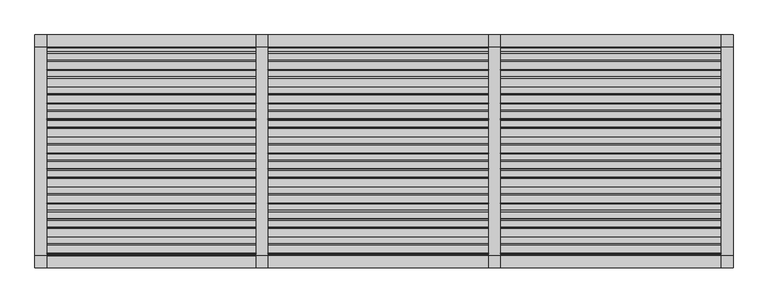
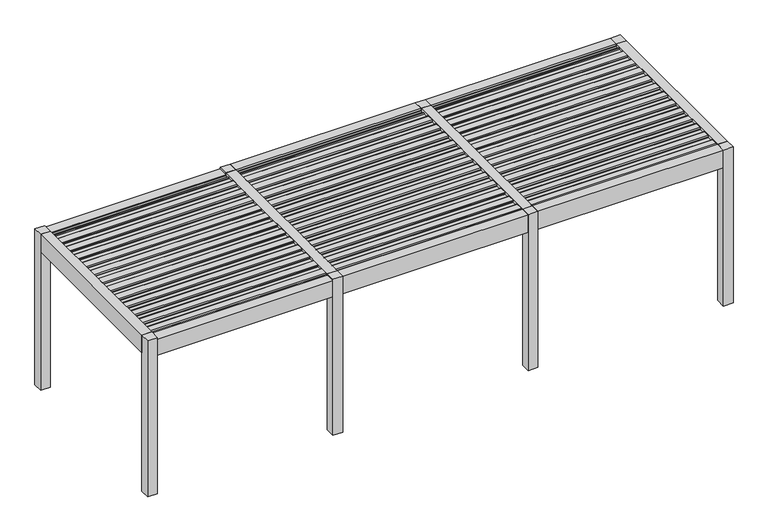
"""IFC4 building model written with IfcOpenShell, lengths in millimetres: proxy geometry, Renson_Amani_Patio_Cover : Renson_Amani_Patio_Cover."""

import ifcopenshell
import ifcopenshell.guid

model = None  # the IFC model being written
_history = None  # IfcOwnerHistory: only IFC2X3 demands one
_inside = {}  # id of a spatial element -> (the spatial element, [elements in it])
_under = {}  # id of a project, library or spatial element -> (it, [spatial elements below it])
_declared = {}  # id of a project -> (the project, [libraries it declares])
_typed = {}  # id of a type object -> (the type object, [elements of that type])
_made_of = {}  # id of a material, layer set ... -> (it, [elements and type objects made of it])


def new_model(schema):
    """Start an empty IFC model of exactly this schema.

    Asked for "IFC4X3", IfcOpenShell would pick the latest addendum, in which some entities
    have other attributes; the version numbers below select the first issue.
    IFC2X3 requires an IfcOwnerHistory on every rooted entity: one is made here for all.
    """
    global model, _history
    if schema == "IFC4X3":
        model = ifcopenshell.file(schema_version=(4, 3, 0, 0))
    else:
        model = ifcopenshell.file(schema=schema)
    _inside.clear()
    _under.clear()
    _declared.clear()
    _typed.clear()
    _made_of.clear()
    _history = None
    if model.schema == "IFC2X3":
        org = make("IfcOrganization", Name="unknown")
        user = make(
            "IfcPersonAndOrganization",
            ThePerson=make("IfcPerson", FamilyName="unknown"),
            TheOrganization=org,
        )
        app = make(
            "IfcApplication",
            ApplicationDeveloper=org,
            Version="unknown",
            ApplicationFullName="unknown",
            ApplicationIdentifier="unknown",
        )
        _history = make(
            "IfcOwnerHistory",
            OwningUser=user,
            OwningApplication=app,
            ChangeAction="ADDED",
            CreationDate=0,
        )
    return model


def make(cls, **values):
    """One entity of the class cls with the attributes given. An attribute that is None is left unset."""
    return model.create_entity(
        cls, **{name: value for name, value in values.items() if value is not None}
    )


def rooted(cls, **values):
    """An entity with a GlobalId (a new one), such as an element, a storey or a relation."""
    return make(cls, GlobalId=ifcopenshell.guid.new(), OwnerHistory=_history, **values)


def si_unit(unit_type, name, prefix=None):
    """IfcSIUnit, for example si_unit("LENGTHUNIT", "METRE", prefix="MILLI")."""
    return make("IfcSIUnit", UnitType=unit_type, Prefix=prefix, Name=name)


def assignment(units):
    """IfcUnitAssignment: the units of a project."""
    return None if units is None else make("IfcUnitAssignment", Units=units)


def point(xyz):
    """IfcCartesianPoint."""
    return None if xyz is None else make("IfcCartesianPoint", Coordinates=xyz)


def direction(xyz):
    """IfcDirection."""
    return None if xyz is None else make("IfcDirection", DirectionRatios=xyz)


def frame(location, z_axis=None, x_axis=None):
    """IfcAxis2Placement3D, a coordinate frame: its origin and axes. An axis left out is left unset."""
    return make(
        "IfcAxis2Placement3D",
        Location=point(location),
        Axis=direction(z_axis),
        RefDirection=direction(x_axis),
    )


def frame_2d(location, x_axis=None):
    """IfcAxis2Placement2D, a coordinate frame in the plane: its origin and x axis."""
    return make(
        "IfcAxis2Placement2D", Location=point(location), RefDirection=direction(x_axis)
    )


def origin():
    """The frame at (0, 0, 0) with its axes left unset."""
    return frame((0.0, 0.0, 0.0))


def origin_with_axes():
    """The frame at (0, 0, 0) with the z axis (0, 0, 1) and the x axis (1, 0, 0) written out."""
    return frame((0.0, 0.0, 0.0), z_axis=(0.0, 0.0, 1.0), x_axis=(1.0, 0.0, 0.0))


def place(relative_to, where):
    """IfcLocalPlacement: puts the frame where relative to a parent placement (None: the world)."""
    return make(
        "IfcLocalPlacement", PlacementRelTo=relative_to, RelativePlacement=where
    )


def context(
    kind, dimensions, precision=None, world=None, true_north=None, identifier=None
):
    """IfcGeometricRepresentationContext, for example the 3D "Model" context."""
    return make(
        "IfcGeometricRepresentationContext",
        ContextIdentifier=identifier,
        ContextType=kind,
        CoordinateSpaceDimension=dimensions,
        Precision=precision,
        WorldCoordinateSystem=world,
        TrueNorth=true_north,
    )


def project(units=None, contexts=None):
    """IfcProject with its units and contexts."""
    return rooted(
        "IfcProject",
        Name="project",
        RepresentationContexts=contexts,
        UnitsInContext=assignment(units),
    )


def spatial(cls, under=None, at=None, **own):
    """A site, building, storey or space (cls), placed at a placement, below another one or the project."""
    s = rooted(cls, ObjectPlacement=at, **own)
    if under is not None:
        _under.setdefault(under.id(), (under, []))[1].append(s)
    return s


def polyline(points):
    """IfcPolyline through the points."""
    return make("IfcPolyline", Points=[point(p) for p in points])


def circle_curve(where, radius):
    """IfcCircle in the frame where."""
    return make("IfcCircle", Position=where, Radius=radius)


def trimmed(basis, trim1, trim2, sense, master):
    """IfcTrimmedCurve: the piece of a basis curve between two trims."""
    return make(
        "IfcTrimmedCurve",
        BasisCurve=basis,
        Trim1=trim1,
        Trim2=trim2,
        SenseAgreement=sense,
        MasterRepresentation=master,
    )


def segment(curve, same_sense, transition):
    """IfcCompositeCurveSegment."""
    return make(
        "IfcCompositeCurveSegment",
        Transition=transition,
        SameSense=same_sense,
        ParentCurve=curve,
    )


def composite_curve(segments, self_intersect=None):
    """IfcCompositeCurve: segments joined end to end."""
    return make("IfcCompositeCurve", Segments=segments, SelfIntersect=self_intersect)


def outline(outer, holes=None, kind="AREA"):
    """IfcArbitraryClosedProfileDef: a profile drawn as a closed curve; with holes, ...WithVoids."""
    if holes is None:
        return make("IfcArbitraryClosedProfileDef", ProfileType=kind, OuterCurve=outer)
    return make(
        "IfcArbitraryProfileDefWithVoids",
        ProfileType=kind,
        OuterCurve=outer,
        InnerCurves=holes,
    )


def extrude(swept, where, along, depth):
    """IfcExtrudedAreaSolid: the profile swept, set in the frame where, extruded along a direction by depth."""
    return make(
        "IfcExtrudedAreaSolid",
        SweptArea=swept,
        Position=where,
        ExtrudedDirection=direction(along),
        Depth=depth,
    )


def shape(context_of_items, identifier, shape_type, items):
    """IfcShapeRepresentation: the items that make up one representation, for example the "Body"."""
    return make(
        "IfcShapeRepresentation",
        ContextOfItems=context_of_items,
        RepresentationIdentifier=identifier,
        RepresentationType=shape_type,
        Items=items,
    )


def source(mapping_origin, context_of_items, identifier, shape_type, items):
    """IfcRepresentationMap: a shape defined once, which mapped items show again and again."""
    return make(
        "IfcRepresentationMap",
        MappingOrigin=mapping_origin,
        MappedRepresentation=shape(context_of_items, identifier, shape_type, items),
    )


def transform(
    local_origin,
    x_axis=None,
    y_axis=None,
    z_axis=None,
    scale=None,
    scale2=None,
    scale3=None,
    uniform=True,
):
    """IfcCartesianTransformationOperator3D, or its non-uniform kind. x_axis, y_axis, z_axis: its Axis1, 2, 3."""
    if uniform:
        return make(
            "IfcCartesianTransformationOperator3D",
            Axis1=direction(x_axis),
            Axis2=direction(y_axis),
            LocalOrigin=point(local_origin),
            Scale=scale,
            Axis3=direction(z_axis),
        )
    return make(
        "IfcCartesianTransformationOperator3DnonUniform",
        Axis1=direction(x_axis),
        Axis2=direction(y_axis),
        LocalOrigin=point(local_origin),
        Scale=scale,
        Axis3=direction(z_axis),
        Scale2=scale2,
        Scale3=scale3,
    )


def mapped(mapping_source, mapping_target):
    """IfcMappedItem: shows the shape of a source again, moved by a transform."""
    return make(
        "IfcMappedItem", MappingSource=mapping_source, MappingTarget=mapping_target
    )


def made_of(thing, what):
    """Note that an element or type object is made of a material, layer set ...; save() writes the relation."""
    if what is not None:
        _made_of.setdefault(what.id(), (what, []))[1].append(thing)
    return thing


def element(
    cls,
    number,
    at=None,
    inside=None,
    cuts=None,
    type_object=None,
    material=None,
    context=None,
    identifier="Body",
    shape_type=None,
    held_by="IfcProductDefinitionShape",
    body=None,
    shapes=None,
    **own,
):
    """One element of the class cls, such as IfcWall. Its Tag is "e" and its number.

    at: its placement. inside: the storey or other place that contains it. cuts: it is an
    opening in that element (IfcRelVoidsElement). A single representation is given by context,
    identifier, shape_type and body (its items); several are given by shapes. held_by: the class
    of the entity that holds the representations. save() writes the other relations.
    """
    e = rooted(cls, Tag="e%d" % number, ObjectPlacement=at, **own)
    if body is not None:
        shapes = [shape(context, identifier, shape_type, body)]
    if shapes is not None:
        e.Representation = make(held_by, Representations=shapes)
    if inside is not None:
        _inside.setdefault(inside.id(), (inside, []))[1].append(e)
    if cuts is not None:
        rooted(
            "IfcRelVoidsElement", RelatingBuildingElement=cuts, RelatedOpeningElement=e
        )
    if type_object is not None:
        _typed.setdefault(type_object.id(), (type_object, []))[1].append(e)
    return made_of(e, material)


def aggregate(whole, parts):
    """IfcRelAggregates: a whole, such as a stair, and the parts it consists of."""
    return rooted("IfcRelAggregates", RelatingObject=whole, RelatedObjects=parts)


def save(model, path):
    """Write the relations noted so far, then the file.

    IfcRelAggregates (storeys below a building ...), IfcRelContainedInSpatialStructure (elements
    in a storey), IfcRelDefinesByType, IfcRelAssociatesMaterial and IfcRelDeclares: one each for
    every whole, place, type object, material and project.
    """
    for whole, parts in _under.values():
        aggregate(whole, parts)
    for where, things in _inside.values():
        rooted(
            "IfcRelContainedInSpatialStructure",
            RelatedElements=things,
            RelatingStructure=where,
        )
    for kind, things in _typed.values():
        rooted("IfcRelDefinesByType", RelatedObjects=things, RelatingType=kind)
    for what, things in _made_of.values():
        rooted("IfcRelAssociatesMaterial", RelatedObjects=things, RelatingMaterial=what)
    for by, libraries in _declared.values():
        rooted("IfcRelDeclares", RelatingContext=by, RelatedDefinitions=libraries)
    model.write(path)


def generic_models_ec7fa52f(model_context):
    return source(origin(), model_context, "Body", "SweptSolid", [
        extrude(outline(composite_curve([segment(polyline([(-1073.7289238, 2483.35), (-1076.1490335, 2511.01198), (-1104.984284, 2512.3970364), (-1101.5469529, 2531.8911096), (-991.549838, 2526.6075693)]), True, "CONTINUOUS"), segment(trimmed(circle_curve(frame_2d((-992.26951, 2511.6248435)), 15.0), [point((-991.549838, 2526.6075693))], [point((-977.4973937, 2514.2295662))], False, "CARTESIAN"), True, "CONTINUOUS"), segment(polyline([(-977.4973937, 2514.2295662), (-974.1067023, 2495.0), (-886.3709263, 2495.0), (-883.3594689, 2512.0788237), (-868.0824984, 2511.3450182), (-865.6332517, 2483.35), (-1073.7289238, 2483.35)]), True, "CONTINUOUS")], self_intersect=False)), frame((4500.0, 0.0, 0.0), z_axis=(1.0, 0.0, 0.0), x_axis=(0.0, 1.0, 0.0)), (0.0, 0.0, 1.0), 2850.0),
        extrude(outline(composite_curve([segment(polyline([(-858.7132078, 2483.35), (-861.1333174, 2511.01198), (-889.9685679, 2512.3970364), (-886.5312368, 2531.8911096), (-776.534122, 2526.6075693)]), True, "CONTINUOUS"), segment(trimmed(circle_curve(frame_2d((-777.2537939, 2511.6248435)), 15.0), [point((-776.534122, 2526.6075693))], [point((-762.4816776, 2514.2295662))], False, "CARTESIAN"), True, "CONTINUOUS"), segment(polyline([(-762.4816776, 2514.2295662), (-759.0909863, 2495.0), (-671.3552102, 2495.0), (-668.3437528, 2512.0788237), (-653.0667824, 2511.3450182), (-650.6175356, 2483.35), (-858.7132078, 2483.35)]), True, "CONTINUOUS")], self_intersect=False)), frame((4500.0, 0.0, 0.0), z_axis=(1.0, 0.0, 0.0), x_axis=(0.0, 1.0, 0.0)), (0.0, 0.0, 1.0), 2850.0),
        extrude(outline(composite_curve([segment(polyline([(-643.6974917, 2483.35), (-646.1176014, 2511.01198), (-674.9528519, 2512.3970364), (-671.5155208, 2531.8911096), (-561.5184059, 2526.6075693)]), True, "CONTINUOUS"), segment(trimmed(circle_curve(frame_2d((-562.2380779, 2511.6248435)), 15.0), [point((-561.5184059, 2526.6075693))], [point((-547.4659616, 2514.2295662))], False, "CARTESIAN"), True, "CONTINUOUS"), segment(polyline([(-547.4659616, 2514.2295662), (-544.0752702, 2495.0), (-456.3394942, 2495.0), (-453.3280368, 2512.0788237), (-438.0510663, 2511.3450182), (-435.6018196, 2483.35), (-643.6974917, 2483.35)]), True, "CONTINUOUS")], self_intersect=False)), frame((4500.0, 0.0, 0.0), z_axis=(1.0, 0.0, 0.0), x_axis=(0.0, 1.0, 0.0)), (0.0, 0.0, 1.0), 2850.0),
        extrude(outline(composite_curve([segment(polyline([(-428.6817757, 2483.35), (-431.1018854, 2511.01198), (-459.9371358, 2512.3970364), (-456.4998047, 2531.8911096), (-346.5026899, 2526.6075693)]), True, "CONTINUOUS"), segment(trimmed(circle_curve(frame_2d((-347.2223618, 2511.6248435)), 15.0), [point((-346.5026899, 2526.6075693))], [point((-332.4502455, 2514.2295662))], False, "CARTESIAN"), True, "CONTINUOUS"), segment(polyline([(-332.4502455, 2514.2295662), (-329.0595542, 2495.0), (-241.3237782, 2495.0), (-238.3123207, 2512.0788237), (-223.0353503, 2511.3450182), (-220.5861035, 2483.35), (-428.6817757, 2483.35)]), True, "CONTINUOUS")], self_intersect=False)), frame((4500.0, 0.0, 0.0), z_axis=(1.0, 0.0, 0.0), x_axis=(0.0, 1.0, 0.0)), (0.0, 0.0, 1.0), 2850.0),
        extrude(outline(composite_curve([segment(polyline([(-213.6660597, 2483.35), (-216.0861693, 2511.01198), (-244.9214198, 2512.3970364), (-241.4840887, 2531.8911096), (-131.4869738, 2526.6075693)]), True, "CONTINUOUS"), segment(trimmed(circle_curve(frame_2d((-132.2066458, 2511.6248435)), 15.0), [point((-131.4869738, 2526.6075693))], [point((-117.4345295, 2514.2295662))], False, "CARTESIAN"), True, "CONTINUOUS"), segment(polyline([(-117.4345295, 2514.2295662), (-114.0438381, 2495.0), (-26.3080621, 2495.0), (-23.2966047, 2512.0788237), (-8.0196342, 2511.3450182), (-5.5703875, 2483.35), (-213.6660597, 2483.35)]), True, "CONTINUOUS")], self_intersect=False)), frame((4500.0, 0.0, 0.0), z_axis=(1.0, 0.0, 0.0), x_axis=(0.0, 1.0, 0.0)), (0.0, 0.0, 1.0), 2850.0),
        extrude(outline(composite_curve([segment(polyline([(1.3496564, 2483.35), (-1.0704533, 2511.01198), (-29.9057037, 2512.3970364), (-26.4683726, 2531.8911096), (83.5287422, 2526.6075693)]), True, "CONTINUOUS"), segment(trimmed(circle_curve(frame_2d((82.8090703, 2511.6248435)), 15.0), [point((83.5287422, 2526.6075693))], [point((97.5811866, 2514.2295662))], False, "CARTESIAN"), True, "CONTINUOUS"), segment(polyline([(97.5811866, 2514.2295662), (100.9718779, 2495.0), (188.7076539, 2495.0), (191.7191114, 2512.0788237), (206.9960818, 2511.3450182), (209.4453286, 2483.35), (1.3496564, 2483.35)]), True, "CONTINUOUS")], self_intersect=False)), frame((4500.0, 0.0, 0.0), z_axis=(1.0, 0.0, 0.0), x_axis=(0.0, 1.0, 0.0)), (0.0, 0.0, 1.0), 2850.0),
        extrude(outline(composite_curve([segment(polyline([(216.3653724, 2483.35), (213.9452628, 2511.01198), (185.1100123, 2512.3970364), (188.5473434, 2531.8911096), (298.5444582, 2526.6075693)]), True, "CONTINUOUS"), segment(trimmed(circle_curve(frame_2d((297.8247863, 2511.6248435)), 15.0), [point((298.5444582, 2526.6075693))], [point((312.5969026, 2514.2295662))], False, "CARTESIAN"), True, "CONTINUOUS"), segment(polyline([(312.5969026, 2514.2295662), (315.987594, 2495.0), (403.72337, 2495.0), (406.7348274, 2512.0788237), (422.0117979, 2511.3450182), (424.4610446, 2483.35), (216.3653724, 2483.35)]), True, "CONTINUOUS")], self_intersect=False)), frame((4500.0, 0.0, 0.0), z_axis=(1.0, 0.0, 0.0), x_axis=(0.0, 1.0, 0.0)), (0.0, 0.0, 1.0), 2850.0),
        extrude(outline(composite_curve([segment(polyline([(431.3810885, 2483.35), (428.9609788, 2511.01198), (400.1257284, 2512.3970364), (403.5630594, 2531.8911096), (513.5601743, 2526.6075693)]), True, "CONTINUOUS"), segment(trimmed(circle_curve(frame_2d((512.8405024, 2511.6248435)), 15.0), [point((513.5601743, 2526.6075693))], [point((527.6126187, 2514.2295662))], False, "CARTESIAN"), True, "CONTINUOUS"), segment(polyline([(527.6126187, 2514.2295662), (531.00331, 2495.0), (618.739086, 2495.0), (621.7505434, 2512.0788237), (637.0275139, 2511.3450182), (639.4767606, 2483.35), (431.3810885, 2483.35)]), True, "CONTINUOUS")], self_intersect=False)), frame((4500.0, 0.0, 0.0), z_axis=(1.0, 0.0, 0.0), x_axis=(0.0, 1.0, 0.0)), (0.0, 0.0, 1.0), 2850.0),
        extrude(outline(composite_curve([segment(polyline([(646.3968045, 2483.35), (643.9766949, 2511.01198), (615.1414444, 2512.3970364), (618.5787755, 2531.8911096), (728.5758903, 2526.6075693)]), True, "CONTINUOUS"), segment(trimmed(circle_curve(frame_2d((727.8562184, 2511.6248435)), 15.0), [point((728.5758903, 2526.6075693))], [point((742.6283347, 2514.2295662))], False, "CARTESIAN"), True, "CONTINUOUS"), segment(polyline([(742.6283347, 2514.2295662), (746.019026, 2495.0), (833.7548021, 2495.0), (836.7662595, 2512.0788237), (852.04323, 2511.3450182), (854.4924767, 2483.35), (646.3968045, 2483.35)]), True, "CONTINUOUS")], self_intersect=False)), frame((4500.0, 0.0, 0.0), z_axis=(1.0, 0.0, 0.0), x_axis=(0.0, 1.0, 0.0)), (0.0, 0.0, 1.0), 2850.0),
        extrude(outline(composite_curve([segment(polyline([(861.4125206, 2483.35), (858.9924109, 2511.01198), (830.1571605, 2512.3970364), (833.5944915, 2531.8911096), (943.5916064, 2526.6075693)]), True, "CONTINUOUS"), segment(trimmed(circle_curve(frame_2d((942.8719345, 2511.6248435)), 15.0), [point((943.5916064, 2526.6075693))], [point((957.6440508, 2514.2295662))], False, "CARTESIAN"), True, "CONTINUOUS"), segment(polyline([(957.6440508, 2514.2295662), (961.0347421, 2495.0), (1048.7705181, 2495.0), (1051.7819755, 2512.0788237), (1067.058946, 2511.3450182), (1069.5081927, 2483.35), (861.4125206, 2483.35)]), True, "CONTINUOUS")], self_intersect=False)), frame((4500.0, 0.0, 0.0), z_axis=(1.0, 0.0, 0.0), x_axis=(0.0, 1.0, 0.0)), (0.0, 0.0, 1.0), 2850.0),
        extrude(outline(composite_curve([segment(polyline([(-1288.7446399, 2483.35), (-1291.1647495, 2511.01198), (-1320.0, 2512.3970364), (-1316.5626689, 2531.8911096), (-1206.5655541, 2526.6075693)]), True, "CONTINUOUS"), segment(trimmed(circle_curve(frame_2d((-1207.285226, 2511.6248435)), 15.0), [point((-1206.5655541, 2526.6075693))], [point((-1192.5131097, 2514.2295662))], False, "CARTESIAN"), True, "CONTINUOUS"), segment(polyline([(-1192.5131097, 2514.2295662), (-1189.1224184, 2495.0), (-1101.3866423, 2495.0), (-1098.3751849, 2512.0788237), (-1083.0982144, 2511.3450182), (-1080.6489677, 2483.35), (-1288.7446399, 2483.35)]), True, "CONTINUOUS")], self_intersect=False)), frame((4500.0, 0.0, 0.0), z_axis=(1.0, 0.0, 0.0), x_axis=(0.0, 1.0, 0.0)), (0.0, 0.0, 1.0), 2850.0),
        extrude(outline(composite_curve([segment(polyline([(1076.4282366, 2483.35), (1074.008127, 2511.01198), (1045.1728765, 2512.3970364), (1048.6102076, 2531.8911096), (1158.6073224, 2526.6075693)]), True, "CONTINUOUS"), segment(trimmed(circle_curve(frame_2d((1157.8876505, 2511.6248435)), 15.0), [point((1158.6073224, 2526.6075693))], [point((1172.6597668, 2514.2295662))], False, "CARTESIAN"), True, "CONTINUOUS"), segment(polyline([(1172.6597668, 2514.2295662), (1176.0504581, 2495.0), (1263.7862342, 2495.0), (1266.7976916, 2512.0788237), (1282.0746621, 2511.3450182), (1284.5239088, 2483.35), (1076.4282366, 2483.35)]), True, "CONTINUOUS")], self_intersect=False)), frame((4500.0, 0.0, 0.0), z_axis=(1.0, 0.0, 0.0), x_axis=(0.0, 1.0, 0.0)), (0.0, 0.0, 1.0), 2850.0),
        extrude(outline(composite_curve([segment(polyline([(-1073.7289238, 2483.35), (-1076.1490335, 2511.01198), (-1104.984284, 2512.3970364), (-1101.5469529, 2531.8911096), (-991.549838, 2526.6075693)]), True, "CONTINUOUS"), segment(trimmed(circle_curve(frame_2d((-992.26951, 2511.6248435)), 15.0), [point((-991.549838, 2526.6075693))], [point((-977.4973937, 2514.2295662))], False, "CARTESIAN"), True, "CONTINUOUS"), segment(polyline([(-977.4973937, 2514.2295662), (-974.1067023, 2495.0), (-886.3709263, 2495.0), (-883.3594689, 2512.0788237), (-868.0824984, 2511.3450182), (-865.6332517, 2483.35), (-1073.7289238, 2483.35)]), True, "CONTINUOUS")], self_intersect=False)), frame((1500.0, 0.0, 0.0), z_axis=(1.0, 0.0, 0.0), x_axis=(0.0, 1.0, 0.0)), (0.0, 0.0, 1.0), 2850.0),
        extrude(outline(composite_curve([segment(polyline([(-858.7132078, 2483.35), (-861.1333174, 2511.01198), (-889.9685679, 2512.3970364), (-886.5312368, 2531.8911096), (-776.534122, 2526.6075693)]), True, "CONTINUOUS"), segment(trimmed(circle_curve(frame_2d((-777.2537939, 2511.6248435)), 15.0), [point((-776.534122, 2526.6075693))], [point((-762.4816776, 2514.2295662))], False, "CARTESIAN"), True, "CONTINUOUS"), segment(polyline([(-762.4816776, 2514.2295662), (-759.0909863, 2495.0), (-671.3552102, 2495.0), (-668.3437528, 2512.0788237), (-653.0667824, 2511.3450182), (-650.6175356, 2483.35), (-858.7132078, 2483.35)]), True, "CONTINUOUS")], self_intersect=False)), frame((1500.0, 0.0, 0.0), z_axis=(1.0, 0.0, 0.0), x_axis=(0.0, 1.0, 0.0)), (0.0, 0.0, 1.0), 2850.0),
        extrude(outline(composite_curve([segment(polyline([(-643.6974917, 2483.35), (-646.1176014, 2511.01198), (-674.9528519, 2512.3970364), (-671.5155208, 2531.8911096), (-561.5184059, 2526.6075693)]), True, "CONTINUOUS"), segment(trimmed(circle_curve(frame_2d((-562.2380779, 2511.6248435)), 15.0), [point((-561.5184059, 2526.6075693))], [point((-547.4659616, 2514.2295662))], False, "CARTESIAN"), True, "CONTINUOUS"), segment(polyline([(-547.4659616, 2514.2295662), (-544.0752702, 2495.0), (-456.3394942, 2495.0), (-453.3280368, 2512.0788237), (-438.0510663, 2511.3450182), (-435.6018196, 2483.35), (-643.6974917, 2483.35)]), True, "CONTINUOUS")], self_intersect=False)), frame((1500.0, 0.0, 0.0), z_axis=(1.0, 0.0, 0.0), x_axis=(0.0, 1.0, 0.0)), (0.0, 0.0, 1.0), 2850.0),
        extrude(outline(composite_curve([segment(polyline([(-428.6817757, 2483.35), (-431.1018854, 2511.01198), (-459.9371358, 2512.3970364), (-456.4998047, 2531.8911096), (-346.5026899, 2526.6075693)]), True, "CONTINUOUS"), segment(trimmed(circle_curve(frame_2d((-347.2223618, 2511.6248435)), 15.0), [point((-346.5026899, 2526.6075693))], [point((-332.4502455, 2514.2295662))], False, "CARTESIAN"), True, "CONTINUOUS"), segment(polyline([(-332.4502455, 2514.2295662), (-329.0595542, 2495.0), (-241.3237782, 2495.0), (-238.3123207, 2512.0788237), (-223.0353503, 2511.3450182), (-220.5861035, 2483.35), (-428.6817757, 2483.35)]), True, "CONTINUOUS")], self_intersect=False)), frame((1500.0, 0.0, 0.0), z_axis=(1.0, 0.0, 0.0), x_axis=(0.0, 1.0, 0.0)), (0.0, 0.0, 1.0), 2850.0),
        extrude(outline(composite_curve([segment(polyline([(-213.6660597, 2483.35), (-216.0861693, 2511.01198), (-244.9214198, 2512.3970364), (-241.4840887, 2531.8911096), (-131.4869738, 2526.6075693)]), True, "CONTINUOUS"), segment(trimmed(circle_curve(frame_2d((-132.2066458, 2511.6248435)), 15.0), [point((-131.4869738, 2526.6075693))], [point((-117.4345295, 2514.2295662))], False, "CARTESIAN"), True, "CONTINUOUS"), segment(polyline([(-117.4345295, 2514.2295662), (-114.0438381, 2495.0), (-26.3080621, 2495.0), (-23.2966047, 2512.0788237), (-8.0196342, 2511.3450182), (-5.5703875, 2483.35), (-213.6660597, 2483.35)]), True, "CONTINUOUS")], self_intersect=False)), frame((1500.0, 0.0, 0.0), z_axis=(1.0, 0.0, 0.0), x_axis=(0.0, 1.0, 0.0)), (0.0, 0.0, 1.0), 2850.0),
        extrude(outline(composite_curve([segment(polyline([(1.3496564, 2483.35), (-1.0704533, 2511.01198), (-29.9057037, 2512.3970364), (-26.4683726, 2531.8911096), (83.5287422, 2526.6075693)]), True, "CONTINUOUS"), segment(trimmed(circle_curve(frame_2d((82.8090703, 2511.6248435)), 15.0), [point((83.5287422, 2526.6075693))], [point((97.5811866, 2514.2295662))], False, "CARTESIAN"), True, "CONTINUOUS"), segment(polyline([(97.5811866, 2514.2295662), (100.9718779, 2495.0), (188.7076539, 2495.0), (191.7191114, 2512.0788237), (206.9960818, 2511.3450182), (209.4453286, 2483.35), (1.3496564, 2483.35)]), True, "CONTINUOUS")], self_intersect=False)), frame((1500.0, 0.0, 0.0), z_axis=(1.0, 0.0, 0.0), x_axis=(0.0, 1.0, 0.0)), (0.0, 0.0, 1.0), 2850.0),
        extrude(outline(composite_curve([segment(polyline([(216.3653724, 2483.35), (213.9452628, 2511.01198), (185.1100123, 2512.3970364), (188.5473434, 2531.8911096), (298.5444582, 2526.6075693)]), True, "CONTINUOUS"), segment(trimmed(circle_curve(frame_2d((297.8247863, 2511.6248435)), 15.0), [point((298.5444582, 2526.6075693))], [point((312.5969026, 2514.2295662))], False, "CARTESIAN"), True, "CONTINUOUS"), segment(polyline([(312.5969026, 2514.2295662), (315.987594, 2495.0), (403.72337, 2495.0), (406.7348274, 2512.0788237), (422.0117979, 2511.3450182), (424.4610446, 2483.35), (216.3653724, 2483.35)]), True, "CONTINUOUS")], self_intersect=False)), frame((1500.0, 0.0, 0.0), z_axis=(1.0, 0.0, 0.0), x_axis=(0.0, 1.0, 0.0)), (0.0, 0.0, 1.0), 2850.0),
        extrude(outline(composite_curve([segment(polyline([(431.3810885, 2483.35), (428.9609788, 2511.01198), (400.1257284, 2512.3970364), (403.5630594, 2531.8911096), (513.5601743, 2526.6075693)]), True, "CONTINUOUS"), segment(trimmed(circle_curve(frame_2d((512.8405024, 2511.6248435)), 15.0), [point((513.5601743, 2526.6075693))], [point((527.6126187, 2514.2295662))], False, "CARTESIAN"), True, "CONTINUOUS"), segment(polyline([(527.6126187, 2514.2295662), (531.00331, 2495.0), (618.739086, 2495.0), (621.7505434, 2512.0788237), (637.0275139, 2511.3450182), (639.4767606, 2483.35), (431.3810885, 2483.35)]), True, "CONTINUOUS")], self_intersect=False)), frame((1500.0, 0.0, 0.0), z_axis=(1.0, 0.0, 0.0), x_axis=(0.0, 1.0, 0.0)), (0.0, 0.0, 1.0), 2850.0),
        extrude(outline(composite_curve([segment(polyline([(646.3968045, 2483.35), (643.9766949, 2511.01198), (615.1414444, 2512.3970364), (618.5787755, 2531.8911096), (728.5758903, 2526.6075693)]), True, "CONTINUOUS"), segment(trimmed(circle_curve(frame_2d((727.8562184, 2511.6248435)), 15.0), [point((728.5758903, 2526.6075693))], [point((742.6283347, 2514.2295662))], False, "CARTESIAN"), True, "CONTINUOUS"), segment(polyline([(742.6283347, 2514.2295662), (746.019026, 2495.0), (833.7548021, 2495.0), (836.7662595, 2512.0788237), (852.04323, 2511.3450182), (854.4924767, 2483.35), (646.3968045, 2483.35)]), True, "CONTINUOUS")], self_intersect=False)), frame((1500.0, 0.0, 0.0), z_axis=(1.0, 0.0, 0.0), x_axis=(0.0, 1.0, 0.0)), (0.0, 0.0, 1.0), 2850.0),
        extrude(outline(composite_curve([segment(polyline([(861.4125206, 2483.35), (858.9924109, 2511.01198), (830.1571605, 2512.3970364), (833.5944915, 2531.8911096), (943.5916064, 2526.6075693)]), True, "CONTINUOUS"), segment(trimmed(circle_curve(frame_2d((942.8719345, 2511.6248435)), 15.0), [point((943.5916064, 2526.6075693))], [point((957.6440508, 2514.2295662))], False, "CARTESIAN"), True, "CONTINUOUS"), segment(polyline([(957.6440508, 2514.2295662), (961.0347421, 2495.0), (1048.7705181, 2495.0), (1051.7819755, 2512.0788237), (1067.058946, 2511.3450182), (1069.5081927, 2483.35), (861.4125206, 2483.35)]), True, "CONTINUOUS")], self_intersect=False)), frame((1500.0, 0.0, 0.0), z_axis=(1.0, 0.0, 0.0), x_axis=(0.0, 1.0, 0.0)), (0.0, 0.0, 1.0), 2850.0),
        extrude(outline(composite_curve([segment(polyline([(-1288.7446399, 2483.35), (-1291.1647495, 2511.01198), (-1320.0, 2512.3970364), (-1316.5626689, 2531.8911096), (-1206.5655541, 2526.6075693)]), True, "CONTINUOUS"), segment(trimmed(circle_curve(frame_2d((-1207.285226, 2511.6248435)), 15.0), [point((-1206.5655541, 2526.6075693))], [point((-1192.5131097, 2514.2295662))], False, "CARTESIAN"), True, "CONTINUOUS"), segment(polyline([(-1192.5131097, 2514.2295662), (-1189.1224184, 2495.0), (-1101.3866423, 2495.0), (-1098.3751849, 2512.0788237), (-1083.0982144, 2511.3450182), (-1080.6489677, 2483.35), (-1288.7446399, 2483.35)]), True, "CONTINUOUS")], self_intersect=False)), frame((1500.0, 0.0, 0.0), z_axis=(1.0, 0.0, 0.0), x_axis=(0.0, 1.0, 0.0)), (0.0, 0.0, 1.0), 2850.0),
        extrude(outline(composite_curve([segment(polyline([(1076.4282366, 2483.35), (1074.008127, 2511.01198), (1045.1728765, 2512.3970364), (1048.6102076, 2531.8911096), (1158.6073224, 2526.6075693)]), True, "CONTINUOUS"), segment(trimmed(circle_curve(frame_2d((1157.8876505, 2511.6248435)), 15.0), [point((1158.6073224, 2526.6075693))], [point((1172.6597668, 2514.2295662))], False, "CARTESIAN"), True, "CONTINUOUS"), segment(polyline([(1172.6597668, 2514.2295662), (1176.0504581, 2495.0), (1263.7862342, 2495.0), (1266.7976916, 2512.0788237), (1282.0746621, 2511.3450182), (1284.5239088, 2483.35), (1076.4282366, 2483.35)]), True, "CONTINUOUS")], self_intersect=False)), frame((1500.0, 0.0, 0.0), z_axis=(1.0, 0.0, 0.0), x_axis=(0.0, 1.0, 0.0)), (0.0, 0.0, 1.0), 2850.0),
        extrude(outline(composite_curve([segment(polyline([(-1073.7289238, 2483.35), (-1076.1490335, 2511.01198), (-1104.984284, 2512.3970364), (-1101.5469529, 2531.8911096), (-991.549838, 2526.6075693)]), True, "CONTINUOUS"), segment(trimmed(circle_curve(frame_2d((-992.26951, 2511.6248435)), 15.0), [point((-991.549838, 2526.6075693))], [point((-977.4973937, 2514.2295662))], False, "CARTESIAN"), True, "CONTINUOUS"), segment(polyline([(-977.4973937, 2514.2295662), (-974.1067023, 2495.0), (-886.3709263, 2495.0), (-883.3594689, 2512.0788237), (-868.0824984, 2511.3450182), (-865.6332517, 2483.35), (-1073.7289238, 2483.35)]), True, "CONTINUOUS")], self_intersect=False)), frame((-1350.0, 0.0, 0.0), z_axis=(1.0, 0.0, 0.0), x_axis=(0.0, 1.0, 0.0)), (0.0, 0.0, 1.0), 2700.0),
        extrude(outline(composite_curve([segment(polyline([(-858.7132078, 2483.35), (-861.1333174, 2511.01198), (-889.9685679, 2512.3970364), (-886.5312368, 2531.8911096), (-776.534122, 2526.6075693)]), True, "CONTINUOUS"), segment(trimmed(circle_curve(frame_2d((-777.2537939, 2511.6248435)), 15.0), [point((-776.534122, 2526.6075693))], [point((-762.4816776, 2514.2295662))], False, "CARTESIAN"), True, "CONTINUOUS"), segment(polyline([(-762.4816776, 2514.2295662), (-759.0909863, 2495.0), (-671.3552102, 2495.0), (-668.3437528, 2512.0788237), (-653.0667824, 2511.3450182), (-650.6175356, 2483.35), (-858.7132078, 2483.35)]), True, "CONTINUOUS")], self_intersect=False)), frame((-1350.0, 0.0, 0.0), z_axis=(1.0, 0.0, 0.0), x_axis=(0.0, 1.0, 0.0)), (0.0, 0.0, 1.0), 2700.0),
        extrude(outline(composite_curve([segment(polyline([(-643.6974917, 2483.35), (-646.1176014, 2511.01198), (-674.9528519, 2512.3970364), (-671.5155208, 2531.8911096), (-561.5184059, 2526.6075693)]), True, "CONTINUOUS"), segment(trimmed(circle_curve(frame_2d((-562.2380779, 2511.6248435)), 15.0), [point((-561.5184059, 2526.6075693))], [point((-547.4659616, 2514.2295662))], False, "CARTESIAN"), True, "CONTINUOUS"), segment(polyline([(-547.4659616, 2514.2295662), (-544.0752702, 2495.0), (-456.3394942, 2495.0), (-453.3280368, 2512.0788237), (-438.0510663, 2511.3450182), (-435.6018196, 2483.35), (-643.6974917, 2483.35)]), True, "CONTINUOUS")], self_intersect=False)), frame((-1350.0, 0.0, 0.0), z_axis=(1.0, 0.0, 0.0), x_axis=(0.0, 1.0, 0.0)), (0.0, 0.0, 1.0), 2700.0),
        extrude(outline(composite_curve([segment(polyline([(-428.6817757, 2483.35), (-431.1018854, 2511.01198), (-459.9371358, 2512.3970364), (-456.4998047, 2531.8911096), (-346.5026899, 2526.6075693)]), True, "CONTINUOUS"), segment(trimmed(circle_curve(frame_2d((-347.2223618, 2511.6248435)), 15.0), [point((-346.5026899, 2526.6075693))], [point((-332.4502455, 2514.2295662))], False, "CARTESIAN"), True, "CONTINUOUS"), segment(polyline([(-332.4502455, 2514.2295662), (-329.0595542, 2495.0), (-241.3237782, 2495.0), (-238.3123207, 2512.0788237), (-223.0353503, 2511.3450182), (-220.5861035, 2483.35), (-428.6817757, 2483.35)]), True, "CONTINUOUS")], self_intersect=False)), frame((-1350.0, 0.0, 0.0), z_axis=(1.0, 0.0, 0.0), x_axis=(0.0, 1.0, 0.0)), (0.0, 0.0, 1.0), 2700.0),
        extrude(outline(composite_curve([segment(polyline([(-213.6660597, 2483.35), (-216.0861693, 2511.01198), (-244.9214198, 2512.3970364), (-241.4840887, 2531.8911096), (-131.4869738, 2526.6075693)]), True, "CONTINUOUS"), segment(trimmed(circle_curve(frame_2d((-132.2066458, 2511.6248435)), 15.0), [point((-131.4869738, 2526.6075693))], [point((-117.4345295, 2514.2295662))], False, "CARTESIAN"), True, "CONTINUOUS"), segment(polyline([(-117.4345295, 2514.2295662), (-114.0438381, 2495.0), (-26.3080621, 2495.0), (-23.2966047, 2512.0788237), (-8.0196342, 2511.3450182), (-5.5703875, 2483.35), (-213.6660597, 2483.35)]), True, "CONTINUOUS")], self_intersect=False)), frame((-1350.0, 0.0, 0.0), z_axis=(1.0, 0.0, 0.0), x_axis=(0.0, 1.0, 0.0)), (0.0, 0.0, 1.0), 2700.0),
        extrude(outline(composite_curve([segment(polyline([(1.3496564, 2483.35), (-1.0704533, 2511.01198), (-29.9057037, 2512.3970364), (-26.4683726, 2531.8911096), (83.5287422, 2526.6075693)]), True, "CONTINUOUS"), segment(trimmed(circle_curve(frame_2d((82.8090703, 2511.6248435)), 15.0), [point((83.5287422, 2526.6075693))], [point((97.5811866, 2514.2295662))], False, "CARTESIAN"), True, "CONTINUOUS"), segment(polyline([(97.5811866, 2514.2295662), (100.9718779, 2495.0), (188.7076539, 2495.0), (191.7191114, 2512.0788237), (206.9960818, 2511.3450182), (209.4453286, 2483.35), (1.3496564, 2483.35)]), True, "CONTINUOUS")], self_intersect=False)), frame((-1350.0, 0.0, 0.0), z_axis=(1.0, 0.0, 0.0), x_axis=(0.0, 1.0, 0.0)), (0.0, 0.0, 1.0), 2700.0),
        extrude(outline(composite_curve([segment(polyline([(216.3653724, 2483.35), (213.9452628, 2511.01198), (185.1100123, 2512.3970364), (188.5473434, 2531.8911096), (298.5444582, 2526.6075693)]), True, "CONTINUOUS"), segment(trimmed(circle_curve(frame_2d((297.8247863, 2511.6248435)), 15.0), [point((298.5444582, 2526.6075693))], [point((312.5969026, 2514.2295662))], False, "CARTESIAN"), True, "CONTINUOUS"), segment(polyline([(312.5969026, 2514.2295662), (315.987594, 2495.0), (403.72337, 2495.0), (406.7348274, 2512.0788237), (422.0117979, 2511.3450182), (424.4610446, 2483.35), (216.3653724, 2483.35)]), True, "CONTINUOUS")], self_intersect=False)), frame((-1350.0, 0.0, 0.0), z_axis=(1.0, 0.0, 0.0), x_axis=(0.0, 1.0, 0.0)), (0.0, 0.0, 1.0), 2700.0),
        extrude(outline(composite_curve([segment(polyline([(431.3810885, 2483.35), (428.9609788, 2511.01198), (400.1257284, 2512.3970364), (403.5630594, 2531.8911096), (513.5601743, 2526.6075693)]), True, "CONTINUOUS"), segment(trimmed(circle_curve(frame_2d((512.8405024, 2511.6248435)), 15.0), [point((513.5601743, 2526.6075693))], [point((527.6126187, 2514.2295662))], False, "CARTESIAN"), True, "CONTINUOUS"), segment(polyline([(527.6126187, 2514.2295662), (531.00331, 2495.0), (618.739086, 2495.0), (621.7505434, 2512.0788237), (637.0275139, 2511.3450182), (639.4767606, 2483.35), (431.3810885, 2483.35)]), True, "CONTINUOUS")], self_intersect=False)), frame((-1350.0, 0.0, 0.0), z_axis=(1.0, 0.0, 0.0), x_axis=(0.0, 1.0, 0.0)), (0.0, 0.0, 1.0), 2700.0),
        extrude(outline(composite_curve([segment(polyline([(646.3968045, 2483.35), (643.9766949, 2511.01198), (615.1414444, 2512.3970364), (618.5787755, 2531.8911096), (728.5758903, 2526.6075693)]), True, "CONTINUOUS"), segment(trimmed(circle_curve(frame_2d((727.8562184, 2511.6248435)), 15.0), [point((728.5758903, 2526.6075693))], [point((742.6283347, 2514.2295662))], False, "CARTESIAN"), True, "CONTINUOUS"), segment(polyline([(742.6283347, 2514.2295662), (746.019026, 2495.0), (833.7548021, 2495.0), (836.7662595, 2512.0788237), (852.04323, 2511.3450182), (854.4924767, 2483.35), (646.3968045, 2483.35)]), True, "CONTINUOUS")], self_intersect=False)), frame((-1350.0, 0.0, 0.0), z_axis=(1.0, 0.0, 0.0), x_axis=(0.0, 1.0, 0.0)), (0.0, 0.0, 1.0), 2700.0),
        extrude(outline(composite_curve([segment(polyline([(861.4125206, 2483.35), (858.9924109, 2511.01198), (830.1571605, 2512.3970364), (833.5944915, 2531.8911096), (943.5916064, 2526.6075693)]), True, "CONTINUOUS"), segment(trimmed(circle_curve(frame_2d((942.8719345, 2511.6248435)), 15.0), [point((943.5916064, 2526.6075693))], [point((957.6440508, 2514.2295662))], False, "CARTESIAN"), True, "CONTINUOUS"), segment(polyline([(957.6440508, 2514.2295662), (961.0347421, 2495.0), (1048.7705181, 2495.0), (1051.7819755, 2512.0788237), (1067.058946, 2511.3450182), (1069.5081927, 2483.35), (861.4125206, 2483.35)]), True, "CONTINUOUS")], self_intersect=False)), frame((-1350.0, 0.0, 0.0), z_axis=(1.0, 0.0, 0.0), x_axis=(0.0, 1.0, 0.0)), (0.0, 0.0, 1.0), 2700.0),
        extrude(outline(composite_curve([segment(polyline([(-1288.7446399, 2483.35), (-1291.1647495, 2511.01198), (-1320.0, 2512.3970364), (-1316.5626689, 2531.8911096), (-1206.5655541, 2526.6075693)]), True, "CONTINUOUS"), segment(trimmed(circle_curve(frame_2d((-1207.285226, 2511.6248435)), 15.0), [point((-1206.5655541, 2526.6075693))], [point((-1192.5131097, 2514.2295662))], False, "CARTESIAN"), True, "CONTINUOUS"), segment(polyline([(-1192.5131097, 2514.2295662), (-1189.1224184, 2495.0), (-1101.3866423, 2495.0), (-1098.3751849, 2512.0788237), (-1083.0982144, 2511.3450182), (-1080.6489677, 2483.35), (-1288.7446399, 2483.35)]), True, "CONTINUOUS")], self_intersect=False)), frame((-1350.0, 0.0, 0.0), z_axis=(1.0, 0.0, 0.0), x_axis=(0.0, 1.0, 0.0)), (0.0, 0.0, 1.0), 2700.0),
        extrude(outline(composite_curve([segment(polyline([(1076.4282366, 2483.35), (1074.008127, 2511.01198), (1045.1728765, 2512.3970364), (1048.6102076, 2531.8911096), (1158.6073224, 2526.6075693)]), True, "CONTINUOUS"), segment(trimmed(circle_curve(frame_2d((1157.8876505, 2511.6248435)), 15.0), [point((1158.6073224, 2526.6075693))], [point((1172.6597668, 2514.2295662))], False, "CARTESIAN"), True, "CONTINUOUS"), segment(polyline([(1172.6597668, 2514.2295662), (1176.0504581, 2495.0), (1263.7862342, 2495.0), (1266.7976916, 2512.0788237), (1282.0746621, 2511.3450182), (1284.5239088, 2483.35), (1076.4282366, 2483.35)]), True, "CONTINUOUS")], self_intersect=False)), frame((-1350.0, 0.0, 0.0), z_axis=(1.0, 0.0, 0.0), x_axis=(0.0, 1.0, 0.0)), (0.0, 0.0, 1.0), 2700.0),
        extrude(outline(polyline([(7500.0, -1350.0), (7500.0, -1500.0), (7350.0, -1500.0), (7350.0, -1350.0), (7500.0, -1350.0)])), origin_with_axes(), (0.0, 0.0, 1.0), 2535.0),
        extrude(outline(polyline([(7500.0, 1500.0), (7500.0, 1350.0), (7350.0, 1350.0), (7350.0, 1500.0), (7500.0, 1500.0)])), origin_with_axes(), (0.0, 0.0, 1.0), 2535.0),
        extrude(outline(polyline([(4500.0, 1500.0), (4500.0, 1350.0), (4350.0, 1350.0), (4350.0, 1500.0), (4500.0, 1500.0)])), origin_with_axes(), (0.0, 0.0, 1.0), 2535.0),
        extrude(outline(polyline([(4500.0, -1350.0), (4500.0, -1500.0), (4350.0, -1500.0), (4350.0, -1350.0), (4500.0, -1350.0)])), origin_with_axes(), (0.0, 0.0, 1.0), 2535.0),
        extrude(outline(polyline([(1500.0, -1350.0), (1500.0, -1500.0), (1350.0, -1500.0), (1350.0, -1350.0), (1500.0, -1350.0)])), origin_with_axes(), (0.0, 0.0, 1.0), 2535.0),
        extrude(outline(polyline([(1500.0, 1500.0), (1500.0, 1350.0), (1350.0, 1350.0), (1350.0, 1500.0), (1500.0, 1500.0)])), origin_with_axes(), (0.0, 0.0, 1.0), 2535.0),
        extrude(outline(polyline([(-1350.0, 1350.0), (-1500.0, 1350.0), (-1500.0, 1500.0), (-1350.0, 1500.0), (-1350.0, 1350.0)])), origin_with_axes(), (0.0, 0.0, 1.0), 2535.0),
        extrude(outline(polyline([(-1350.0, -1350.0), (-1350.0, -1500.0), (-1500.0, -1500.0), (-1500.0, -1350.0), (-1350.0, -1350.0)])), origin_with_axes(), (0.0, 0.0, 1.0), 2535.0),
        extrude(outline(polyline([(1350.0, 2466.6559373), (1290.0, 2466.6559373), (1286.2487113, 2480.6555802), (1329.5940945, 2480.6555802), (1345.0, 2496.400763), (1345.0, 2504.2449277), (1350.0, 2504.6823598), (1350.0, 2466.6559373)])), frame((4500.0, 0.0, 0.0), z_axis=(1.0, 0.0, 0.0), x_axis=(0.0, 1.0, 0.0)), (0.0, 0.0, 1.0), 2850.0),
        extrude(outline(polyline([(-1350.0, 2504.6823598), (-1345.0, 2504.2449277), (-1345.0, 2496.400763), (-1329.2544156, 2480.6555802), (-1319.9090324, 2480.6555802), (-1323.6603211, 2466.6559373), (-1350.0, 2466.6559373), (-1350.0, 2250.0), (-1500.0, 2250.0), (-1500.0, 2535.0), (-1350.0, 2535.0), (-1350.0, 2504.6823598)])), frame((4500.0, 0.0, 0.0), z_axis=(1.0, 0.0, 0.0), x_axis=(0.0, 1.0, 0.0)), (0.0, 0.0, 1.0), 2850.0),
        extrude(outline(polyline([(7350.0, 1500.0), (7350.0, 1350.0), (4500.0, 1350.0), (4500.0, 1500.0), (7350.0, 1500.0)])), frame((0.0, 0.0, 2250.0), z_axis=(0.0, 0.0, 1.0), x_axis=(1.0, 0.0, 0.0)), (0.0, 0.0, 1.0), 285.0),
        extrude(outline(polyline([(2535.0, 4350.0), (2322.0, 4350.0), (2322.0, 4280.0000001), (2250.0, 4280.0000001), (2250.0, 4569.9999999), (2322.0, 4569.9999999), (2322.0, 4500.0), (2535.0, 4500.0), (2535.0, 4350.0)])), frame((0.0, -1350.0, 0.0), z_axis=(0.0, 1.0, 0.0), x_axis=(0.0, 0.0, 1.0)), (0.0, 0.0, 1.0), 2700.0),
        extrude(outline(polyline([(2535.0, 7350.0), (2322.0, 7350.0), (2322.0, 7280.0000001), (2250.0, 7280.0000001), (2250.0, 7500.0), (2535.0, 7500.0), (2535.0, 7350.0)])), frame((0.0, -1350.0, 0.0), z_axis=(0.0, 1.0, 0.0), x_axis=(0.0, 0.0, 1.0)), (0.0, 0.0, 1.0), 2700.0),
        extrude(outline(polyline([(1350.0, 2466.6559373), (1290.0, 2466.6559373), (1286.2487113, 2480.6555802), (1329.5940945, 2480.6555802), (1345.0, 2496.400763), (1345.0, 2504.2449277), (1350.0, 2504.6823598), (1350.0, 2466.6559373)])), frame((1500.0, 0.0, 0.0), z_axis=(1.0, 0.0, 0.0), x_axis=(0.0, 1.0, 0.0)), (0.0, 0.0, 1.0), 2850.0),
        extrude(outline(polyline([(4350.0, 1500.0), (4350.0, 1350.0), (1500.0, 1350.0), (1500.0, 1500.0), (4350.0, 1500.0)])), frame((0.0, 0.0, 2250.0), z_axis=(0.0, 0.0, 1.0), x_axis=(1.0, 0.0, 0.0)), (0.0, 0.0, 1.0), 285.0),
        extrude(outline(polyline([(-1350.0, 2250.0), (-1500.0, 2250.0), (-1500.0, 2535.0), (-1350.0, 2535.0), (-1350.0, 2504.6823598), (-1345.0, 2504.2449277), (-1345.0, 2496.400763), (-1329.2544156, 2480.6555802), (-1319.9090324, 2480.6555802), (-1323.6603211, 2466.6559373), (-1350.0, 2466.6559373), (-1350.0, 2250.0)])), frame((1500.0, 0.0, 0.0), z_axis=(1.0, 0.0, 0.0), x_axis=(0.0, 1.0, 0.0)), (0.0, 0.0, 1.0), 2850.0),
        extrude(outline(polyline([(2535.0, 1350.0), (2322.0, 1350.0), (2322.0, 1280.0000001), (2250.0, 1280.0000001), (2250.0, 1569.9999999), (2322.0, 1569.9999999), (2322.0, 1500.0), (2535.0, 1500.0), (2535.0, 1350.0)])), frame((0.0, -1350.0, 0.0), z_axis=(0.0, 1.0, 0.0), x_axis=(0.0, 0.0, 1.0)), (0.0, 0.0, 1.0), 2700.0),
        extrude(outline(polyline([(2535.0, 4350.0), (2322.0, 4350.0), (2322.0, 4280.0000001), (2250.0, 4280.0000001), (2250.0, 4500.0), (2535.0, 4500.0), (2535.0, 4350.0)])), frame((0.0, -1350.0, 0.0), z_axis=(0.0, 1.0, 0.0), x_axis=(0.0, 0.0, 1.0)), (0.0, 0.0, 1.0), 2700.0),
        extrude(outline(polyline([(1350.0, 2466.6559373), (1290.0, 2466.6559373), (1286.2487113, 2480.6555802), (1329.5940945, 2480.6555802), (1345.0, 2496.400763), (1345.0, 2504.2449277), (1350.0, 2504.6823598), (1350.0, 2466.6559373)])), frame((-1350.0, 0.0, 0.0), z_axis=(1.0, 0.0, 0.0), x_axis=(0.0, 1.0, 0.0)), (0.0, 0.0, 1.0), 2700.0),
        extrude(outline(polyline([(-1350.0, 2510.0), (-1350.0, 2479.6823598), (-1345.0, 2479.2449277), (-1345.0, 2471.400763), (-1329.2544156, 2455.6555802), (-1319.9090324, 2455.6555802), (-1323.6603211, 2441.6559373), (-1350.0, 2441.6559373), (-1350.0, 2250.0), (-1500.0, 2250.0), (-1500.0, 2510.0), (-1350.0, 2510.0)])), frame((-1350.0, 0.0, 0.0), z_axis=(1.0, 0.0, 0.0), x_axis=(0.0, 1.0, 0.0)), (0.0, 0.0, 1.0), 2700.0),
        extrude(outline(polyline([(1350.0, 1500.0), (1350.0, 1350.0), (-1350.0, 1350.0), (-1350.0, 1500.0), (1350.0, 1500.0)])), frame((0.0, 0.0, 2250.0), z_axis=(0.0, 0.0, 1.0), x_axis=(1.0, 0.0, 0.0)), (0.0, 0.0, 1.0), 260.0),
        extrude(outline(polyline([(2535.0, -1350.0), (2535.0, -1500.0), (2250.0, -1500.0), (2250.0, -1280.0000001), (2322.0, -1280.0000001), (2322.0, -1350.0), (2535.0, -1350.0)])), frame((0.0, -1350.0, 0.0), z_axis=(0.0, 1.0, 0.0), x_axis=(0.0, 0.0, 1.0)), (0.0, 0.0, 1.0), 2700.0),
        extrude(outline(polyline([(2250.0, 1500.0), (2535.0, 1500.0), (2535.0, 1350.0), (2322.0, 1350.0), (2322.0, 1280.0000001), (2250.0, 1280.0000001), (2250.0, 1500.0)])), frame((0.0, -1350.0, 0.0), z_axis=(0.0, 1.0, 0.0), x_axis=(0.0, 0.0, 1.0)), (0.0, 0.0, 1.0), 2700.0),
    ])


if __name__ == "__main__":
    model = new_model("IFC4")
    model_context = context("Model", 3, world=origin())
    ifc_project = project(units=[si_unit("LENGTHUNIT", "METRE", prefix="MILLI")], contexts=[model_context])
    site = spatial("IfcSite", under=ifc_project)
    building = spatial("IfcBuilding", under=site)
    placement = place(None, origin())
    generic_models_shape = generic_models_ec7fa52f(model_context)
    element("IfcBuildingElementProxy", 1, Name="Renson_Amani_Patio_Cover : Renson_Amani_Patio_Cover", ObjectType="Renson_Amani_Patio_Cover : Renson_Amani_Patio_Cover", at=placement, inside=building, context=model_context, shape_type="MappedRepresentation", body=[
        mapped(generic_models_shape, transform((0.0, 0.0, 0.0), x_axis=(1.0, 0.0, 0.0), y_axis=(0.0, 1.0, 0.0), z_axis=(0.0, 0.0, 1.0))),
    ])
    save(model, "model.ifc")
